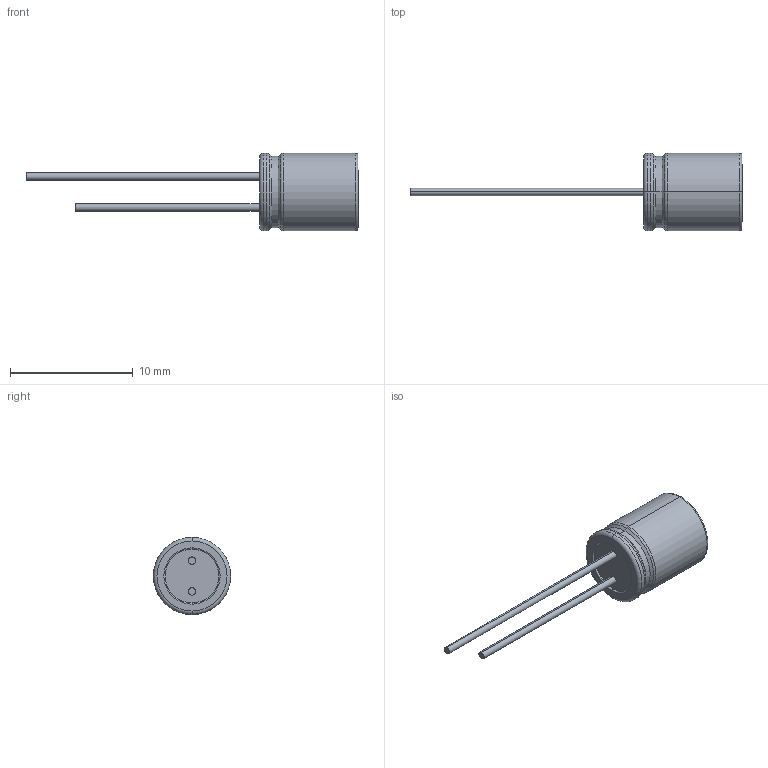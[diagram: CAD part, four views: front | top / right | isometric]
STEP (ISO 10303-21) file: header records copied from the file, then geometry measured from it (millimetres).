
FILE_DESCRIPTION((''),'2;1');
FILE_NAME('POLYMER-RADIAL63X52','2020-06-03T',('xy'),(''),'PRO/ENGINEER BY PARAMETRIC TECHNOLOGY CORPORATION, 2009380','PRO/ENGINEER BY PARAMETRIC TECHNOLOGY CORPORATION, 2009380','');
FILE_SCHEMA(('CONFIG_CONTROL_DESIGN'));
Length unit declared in the file: millimetre
Products named in the file (1): POLYMER-RADIAL63X52
Bounding box: 27 x 6.3 x 6.3 mm (x, y, z)
Volume: 251.7 mm3; surface area: 285.7 mm2
Topology: 1 solids, 1 shells, 612 faces, 1725 edges, 1144 vertices
Faces by surface type: plane 584, cylinder 13, torus 11, cone 4
Entity records: 19414 total; most frequent: CARTESIAN_POINT 3490, ORIENTED_EDGE 3450, DIRECTION 2993, EDGE_CURVE 1725, VECTOR 1677, LINE 1677, VERTEX_POINT 1144, AXIS2_PLACEMENT_3D 658
